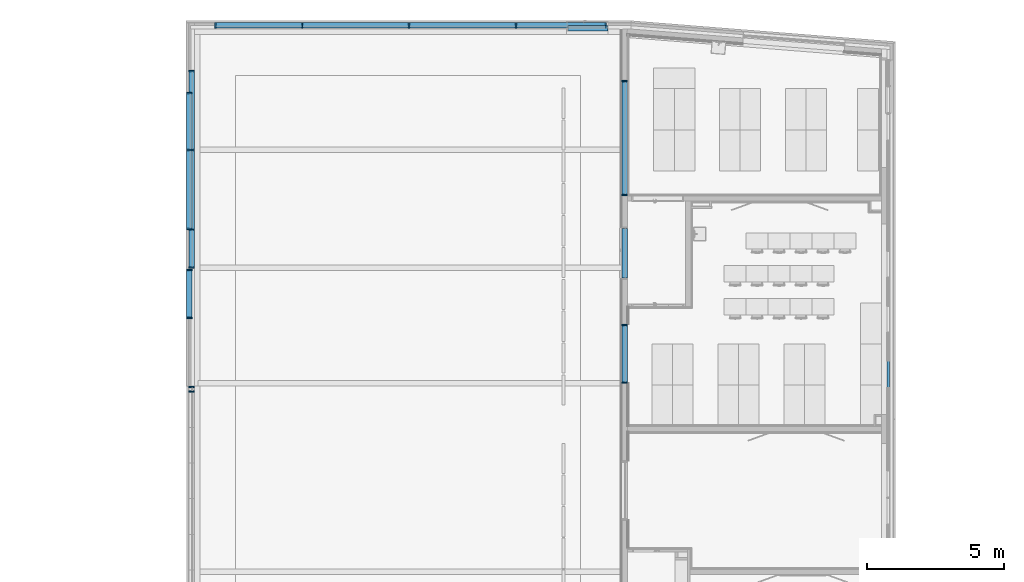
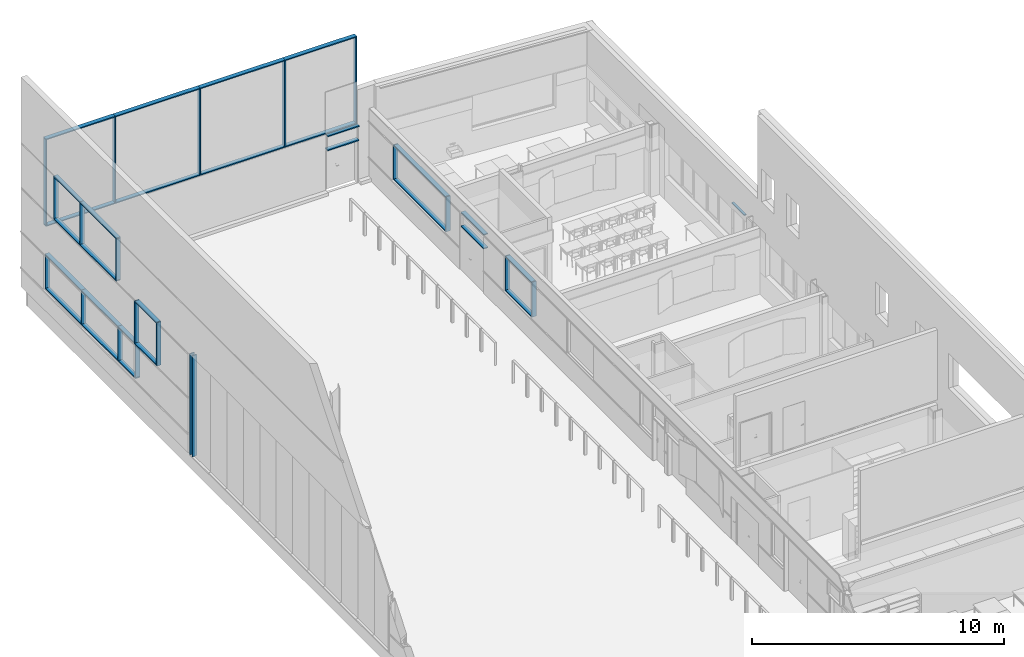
# One storey, part 17 of 137: 53 members, 11 elements without a shape of their own.
"""IFC2X3 building model written with IfcOpenShell, lengths in centimetres."""

from ifc_helpers import new_model, entity, si_unit, converted_unit, derived_unit, direction, frame, frame_2d, origin, origin_2d_with_axis, place, context, subcontext, project, spatial, rectangle, extrude, material, type_object, element, aggregate, save


model = new_model("IFC2X3")

# Units and contexts
model_context = context("Model", 3, precision=0.001, world=origin(), true_north=direction((6.12303176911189e-17, 1.0)))
body_context = subcontext(model_context, "Body", "Model", "MODEL_VIEW")
ifc_project = project(units=[si_unit("LENGTHUNIT", "METRE", prefix="CENTI"), si_unit("AREAUNIT", "SQUARE_METRE"), si_unit("VOLUMEUNIT", "CUBIC_METRE"), converted_unit("PLANEANGLEUNIT", "DEGREE", entity("IfcRatioMeasure", 0.0174532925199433), si_unit("PLANEANGLEUNIT", "RADIAN"), dimensions=[0, 0, 0, 0, 0, 0, 0]), si_unit("MASSUNIT", "GRAM", prefix="KILO"), si_unit("TIMEUNIT", "SECOND"), si_unit("FREQUENCYUNIT", "HERTZ"), si_unit("THERMODYNAMICTEMPERATUREUNIT", "DEGREE_CELSIUS"), derived_unit("THERMALTRANSMITTANCEUNIT", [(si_unit("MASSUNIT", "GRAM", prefix="KILO"), 1), (si_unit("THERMODYNAMICTEMPERATUREUNIT", "KELVIN"), -1), (si_unit("TIMEUNIT", "SECOND"), -3)]), derived_unit("VOLUMETRICFLOWRATEUNIT", [(si_unit("LENGTHUNIT", "METRE"), 3), (si_unit("TIMEUNIT", "SECOND"), -1)]), si_unit("ELECTRICCURRENTUNIT", "AMPERE"), si_unit("ELECTRICVOLTAGEUNIT", "VOLT"), si_unit("POWERUNIT", "WATT"), si_unit("FORCEUNIT", "NEWTON", prefix="KILO"), si_unit("ILLUMINANCEUNIT", "LUX"), si_unit("LUMINOUSFLUXUNIT", "LUMEN"), si_unit("LUMINOUSINTENSITYUNIT", "CANDELA"), derived_unit("USERDEFINED", [(si_unit("MASSUNIT", "GRAM", prefix="KILO"), -1), (si_unit("LENGTHUNIT", "METRE"), -2), (si_unit("TIMEUNIT", "SECOND"), 3), (si_unit("LUMINOUSFLUXUNIT", "LUMEN"), 1)]), derived_unit("LINEARVELOCITYUNIT", [(si_unit("LENGTHUNIT", "METRE"), 1), (si_unit("TIMEUNIT", "SECOND"), -1)]), si_unit("PRESSUREUNIT", "PASCAL"), derived_unit("USERDEFINED", [(si_unit("LENGTHUNIT", "METRE"), -2), (si_unit("MASSUNIT", "GRAM", prefix="KILO"), 1), (si_unit("TIMEUNIT", "SECOND"), -2)])], contexts=[model_context])

# Site, building, storey
site_placement = place(None, frame((8.62739174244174, -249.285249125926, 0.0)))
site = spatial("IfcSite", under=ifc_project, at=site_placement, Name="Default", CompositionType="ELEMENT")
building_placement = place(site_placement, origin())
building = spatial("IfcBuilding", under=site, at=building_placement, CompositionType="ELEMENT")
storey_placement = place(building_placement, origin())
storey = spatial("IfcBuildingStorey", under=building, at=storey_placement, Name="RDC", CompositionType="ELEMENT", Elevation=-8.82465566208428e-11)

# Curtain wall, members
curtain_wall_type = type_object("IfcCurtainWallType", Name="Mur-rideau:Simple panneau", PredefinedType="NOTDEFINED")
curtain_wall_1_placement = place(storey_placement, origin())
curtain_wall_1 = element("IfcCurtainWall", 1, at=curtain_wall_1_placement, inside=storey, type_object=curtain_wall_type, Name="Mur-rideau:Simple panneau", ObjectType="Mur-rideau:Simple panneau")
ifc_material = material(Name="Plastique, blanc opaque")
member_1_placement = place(curtain_wall_1_placement, origin())
member_1 = element("IfcMember", 2, at=member_1_placement, material=ifc_material, Name="Mur-rideau:Simple panneau", ObjectType="Mur-rideau:Simple panneau", context=body_context, shape_type="SweptSolid", body=[
    extrude(rectangle(XDim=20.0, YDim=4.99999999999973, at=frame_2d((1.08357767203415e-13, 4.33209024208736e-13), x_axis=(1.0, 0.0))), frame((1458.9048277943, 7328.47694586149, 705.0), z_axis=(0.0, 0.0, -1.0), x_axis=(-1.0, 0.0, 0.0)), (0.0, 0.0, 1.0), 200.0),
])
member_2_placement = place(curtain_wall_1_placement, origin())
member_2 = element("IfcMember", 3, at=member_2_placement, material=ifc_material, Name="Mur-rideau:Simple panneau", ObjectType="Mur-rideau:Simple panneau", context=body_context, shape_type="SweptSolid", body=[
    extrude(rectangle(XDim=5.00000000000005, YDim=19.9999999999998, at=frame_2d((-5.41788836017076e-14, 0.0), x_axis=(1.0, 0.0))), frame((1458.9048277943, 6830.97694586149, 707.500000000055), z_axis=(0.0, 1.0, 0.0), x_axis=(0.0, 0.0, -1.0)), (0.0, 0.0, 1.0), 290.0),
])
member_3_placement = place(curtain_wall_1_placement, origin())
member_3 = element("IfcMember", 4, at=member_3_placement, material=ifc_material, Name="Mur-rideau:Simple panneau", ObjectType="Mur-rideau:Simple panneau", context=body_context, shape_type="SweptSolid", body=[
    extrude(rectangle(XDim=19.9999999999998, YDim=4.99999999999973, at=frame_2d((0.0, -4.33209024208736e-13), x_axis=(1.0, 0.0))), frame((1458.9048277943, 6833.47694586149, 505.0), z_axis=(0.0, 0.0, 1.0), x_axis=(-1.0, 0.0, 0.0)), (0.0, 0.0, 1.0), 200.0),
])
member_4_placement = place(curtain_wall_1_placement, origin())
member_4 = element("IfcMember", 5, at=member_4_placement, material=ifc_material, Name="Mur-rideau:Simple panneau", ObjectType="Mur-rideau:Simple panneau", context=body_context, shape_type="SweptSolid", body=[
    extrude(rectangle(XDim=4.99999999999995, YDim=20.0000000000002, at=frame_2d((0.0, 2.16715534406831e-13), x_axis=(1.0, 0.0))), frame((1458.9048277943, 7330.97694586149, 502.500000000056), z_axis=(0.0, -1.0, 0.0), x_axis=(0.0, 0.0, -1.0)), (0.0, 0.0, 1.0), 210.0),
])
member_5_placement = place(curtain_wall_1_placement, origin())
member_5 = element("IfcMember", 6, at=member_5_placement, material=ifc_material, Name="Mur-rideau:Simple panneau", ObjectType="Mur-rideau:Simple panneau", context=body_context, shape_type="SweptSolid", body=[
    extrude(rectangle(XDim=5.00000000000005, YDim=19.9999999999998, at=frame_2d((-5.41788836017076e-14, 0.0), x_axis=(1.0, 0.0))), frame((1458.9048277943, 7120.97694586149, 707.500000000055), z_axis=(0.0, 1.0, 0.0), x_axis=(0.0, 0.0, -1.0)), (0.0, 0.0, 1.0), 210.0),
])
member_6_placement = place(curtain_wall_1_placement, origin())
member_6 = element("IfcMember", 7, at=member_6_placement, material=ifc_material, Name="Mur-rideau:Simple panneau", ObjectType="Mur-rideau:Simple panneau", context=body_context, shape_type="SweptSolid", body=[
    extrude(rectangle(XDim=4.99999999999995, YDim=19.9999999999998, at=origin_2d_with_axis()), frame((1458.9048277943, 7120.97694586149, 502.500000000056), z_axis=(0.0, -1.0, 0.0), x_axis=(0.0, 0.0, -1.0)), (0.0, 0.0, 1.0), 290.0),
])
member_7_placement = place(curtain_wall_1_placement, origin())
member_7 = element("IfcMember", 8, at=member_7_placement, material=ifc_material, Name="Mur-rideau:Simple panneau", ObjectType="Mur-rideau:Simple panneau", context=body_context, shape_type="SweptSolid", body=[
    extrude(rectangle(XDim=19.9999999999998, YDim=5.0000000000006, at=frame_2d((0.0, 8.66418048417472e-13), x_axis=(1.0, 0.0))), frame((1458.9048277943, 7120.97694586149, 505.0), z_axis=(0.0, 0.0, 1.0), x_axis=(-1.0, 0.0, 0.0)), (0.0, 0.0, 1.0), 200.0),
])
aggregate(curtain_wall_1, [member_1, member_2, member_3, member_4, member_5, member_6, member_7])

curtain_wall_2_placement = place(storey_placement, origin())
curtain_wall_2 = element("IfcCurtainWall", 9, at=curtain_wall_2_placement, inside=storey, type_object=curtain_wall_type, Name="Mur-rideau:Simple panneau", ObjectType="Mur-rideau:Simple panneau")
member_8_placement = place(curtain_wall_2_placement, origin())
member_8 = element("IfcMember", 10, at=member_8_placement, material=ifc_material, Name="Mur-rideau:Simple panneau", ObjectType="Mur-rideau:Simple panneau", context=body_context, shape_type="SweptSolid", body=[
    extrude(rectangle(XDim=20.0000000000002, YDim=4.99999999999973, at=frame_2d((0.0, -4.33209024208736e-13), x_axis=(1.0, 0.0))), frame((1466.9048277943, 6258.77522290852, 495.0), z_axis=(0.0, 0.0, -1.0), x_axis=(-1.0, 0.0, 0.0)), (0.0, 0.0, 1.0), 490.0),
])
member_9_placement = place(curtain_wall_2_placement, origin())
member_9 = element("IfcMember", 11, at=member_9_placement, material=ifc_material, Name="Mur-rideau:Simple panneau", ObjectType="Mur-rideau:Simple panneau", context=body_context, shape_type="SweptSolid", body=[
    extrude(rectangle(XDim=20.0000000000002, YDim=5.0000000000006, at=origin_2d_with_axis()), frame((1466.9048277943, 6241.27522290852, 5.0), z_axis=(0.0, 0.0, 1.0), x_axis=(-1.0, 0.0, 0.0)), (0.0, 0.0, 1.0), 490.0),
])
aggregate(curtain_wall_2, [member_8, member_9])

# Curtain wall, member
curtain_wall_3_placement = place(storey_placement, origin())
curtain_wall_3 = element("IfcCurtainWall", 12, at=curtain_wall_3_placement, inside=storey, type_object=curtain_wall_type, Name="Mur-rideau:Simple panneau", ObjectType="Mur-rideau:Simple panneau")
member_10_placement = place(curtain_wall_3_placement, origin())
member_10 = element("IfcMember", 13, at=member_10_placement, material=ifc_material, Name="Mur-rideau:Simple panneau", ObjectType="Mur-rideau:Simple panneau", context=body_context, shape_type="SweptSolid", body=[
    extrude(rectangle(XDim=5.0, YDim=9.99999999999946, at=frame_2d((2.70894418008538e-14, 0.0), x_axis=(1.0, 0.0))), frame((4003.90482781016, 6254.9802081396, 277.500000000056), z_axis=(0.0, 1.0, 0.0), x_axis=(0.0, 0.0, -1.0)), (0.0, 0.0, 1.0), 99.9999999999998),
])
aggregate(curtain_wall_3, [member_10])

# Curtain wall, members
curtain_wall_4_placement = place(storey_placement, origin())
curtain_wall_4 = element("IfcCurtainWall", 14, at=curtain_wall_4_placement, inside=storey, type_object=curtain_wall_type, Name="Mur-rideau:Simple panneau", ObjectType="Mur-rideau:Simple panneau")
member_11_placement = place(curtain_wall_4_placement, origin())
member_11 = element("IfcMember", 15, at=member_11_placement, material=ifc_material, Name="Mur-rideau:Simple panneau", ObjectType="Mur-rideau:Simple panneau", context=body_context, shape_type="SweptSolid", body=[
    extrude(rectangle(XDim=19.9999999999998, YDim=4.99999999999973, at=frame_2d((-4.33431068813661e-13, -4.33209024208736e-13), x_axis=(1.0, 0.0))), frame((3043.9048277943, 6483.77522290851, 110.0), z_axis=(0.0, 0.0, 1.0), x_axis=(-1.0, 0.0, 0.0)), (0.0, 0.0, 1.0), 170.0),
])
member_12_placement = place(curtain_wall_4_placement, origin())
member_12 = element("IfcMember", 16, at=member_12_placement, material=ifc_material, Name="Mur-rideau:Simple panneau", ObjectType="Mur-rideau:Simple panneau", context=body_context, shape_type="SweptSolid", body=[
    extrude(rectangle(XDim=5.0, YDim=19.9999999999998, at=frame_2d((2.70894418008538e-14, 4.33431068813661e-13), x_axis=(1.0, 0.0))), frame((3043.9048277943, 6481.27522290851, 277.500000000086), z_axis=(0.0, -1.0, 0.0), x_axis=(0.0, 0.0, -1.0)), (0.0, 0.0, 1.0), 205.0),
])
member_13_placement = place(curtain_wall_4_placement, origin())
member_13 = element("IfcMember", 17, at=member_13_placement, material=ifc_material, Name="Mur-rideau:Simple panneau", ObjectType="Mur-rideau:Simple panneau", context=body_context, shape_type="SweptSolid", body=[
    extrude(rectangle(XDim=5.0, YDim=19.9999999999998, at=origin_2d_with_axis()), frame((3043.9048277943, 6276.27522290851, 112.499999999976), z_axis=(0.0, 1.0, 0.0), x_axis=(0.0, 0.0, -1.0)), (0.0, 0.0, 1.0), 205.0),
])
member_14_placement = place(curtain_wall_4_placement, origin())
member_14 = element("IfcMember", 18, at=member_14_placement, material=ifc_material, Name="Mur-rideau:Simple panneau", ObjectType="Mur-rideau:Simple panneau", context=body_context, shape_type="SweptSolid", body=[
    extrude(rectangle(XDim=19.9999999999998, YDim=4.99999999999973, at=frame_2d((0.0, -4.33209024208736e-13), x_axis=(1.0, 0.0))), frame((3043.9048277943, 6273.77522290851, 280.0), z_axis=(0.0, 0.0, -1.0), x_axis=(-1.0, 0.0, 0.0)), (0.0, 0.0, 1.0), 170.0),
])
aggregate(curtain_wall_4, [member_11, member_12, member_13, member_14])

curtain_wall_5_placement = place(storey_placement, origin())
curtain_wall_5 = element("IfcCurtainWall", 19, at=curtain_wall_5_placement, inside=storey, type_object=curtain_wall_type, Name="Mur-rideau:Simple panneau", ObjectType="Mur-rideau:Simple panneau")
member_15_placement = place(curtain_wall_5_placement, origin())
member_15 = element("IfcMember", 20, at=member_15_placement, material=ifc_material, Name="Mur-rideau:Simple panneau", ObjectType="Mur-rideau:Simple panneau", context=body_context, shape_type="SweptSolid", body=[
    extrude(rectangle(XDim=19.9999999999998, YDim=4.99999999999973, at=frame_2d((-4.33431068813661e-13, 4.33209024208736e-13), x_axis=(1.0, 0.0))), frame((3043.9048277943, 7372.2007380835, 110.0), z_axis=(0.0, 0.0, 1.0), x_axis=(-1.0, 0.0, 0.0)), (0.0, 0.0, 1.0), 170.0),
])
member_16_placement = place(curtain_wall_5_placement, origin())
member_16 = element("IfcMember", 21, at=member_16_placement, material=ifc_material, Name="Mur-rideau:Simple panneau", ObjectType="Mur-rideau:Simple panneau", context=body_context, shape_type="SweptSolid", body=[
    extrude(rectangle(XDim=5.0, YDim=19.9999999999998, at=frame_2d((2.70894418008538e-14, 4.33431068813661e-13), x_axis=(1.0, 0.0))), frame((3043.9048277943, 7369.7007380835, 277.500000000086), z_axis=(0.0, -1.0, 0.0), x_axis=(0.0, 0.0, -1.0)), (0.0, 0.0, 1.0), 410.000000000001),
])
member_17_placement = place(curtain_wall_5_placement, origin())
member_17 = element("IfcMember", 22, at=member_17_placement, material=ifc_material, Name="Mur-rideau:Simple panneau", ObjectType="Mur-rideau:Simple panneau", context=body_context, shape_type="SweptSolid", body=[
    extrude(rectangle(XDim=5.0, YDim=19.9999999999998, at=origin_2d_with_axis()), frame((3043.9048277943, 6959.7007380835, 112.500000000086), z_axis=(0.0, 1.0, 0.0), x_axis=(0.0, 0.0, -1.0)), (0.0, 0.0, 1.0), 410.000000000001),
])
member_18_placement = place(curtain_wall_5_placement, origin())
member_18 = element("IfcMember", 23, at=member_18_placement, material=ifc_material, Name="Mur-rideau:Simple panneau", ObjectType="Mur-rideau:Simple panneau", context=body_context, shape_type="SweptSolid", body=[
    extrude(rectangle(XDim=19.9999999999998, YDim=4.99999999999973, at=frame_2d((4.33431068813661e-13, -4.33209024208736e-13), x_axis=(1.0, 0.0))), frame((3043.9048277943, 6957.2007380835, 280.0), z_axis=(0.0, 0.0, -1.0), x_axis=(-1.0, 0.0, 0.0)), (0.0, 0.0, 1.0), 170.0),
])
aggregate(curtain_wall_5, [member_15, member_16, member_17, member_18])

curtain_wall_6_placement = place(storey_placement, origin())
curtain_wall_6 = element("IfcCurtainWall", 24, at=curtain_wall_6_placement, inside=storey, type_object=curtain_wall_type, Name="Mur-rideau:Simple panneau", ObjectType="Mur-rideau:Simple panneau")
member_19_placement = place(curtain_wall_6_placement, origin())
member_19 = element("IfcMember", 25, at=member_19_placement, material=ifc_material, Name="Mur-rideau:Simple panneau", ObjectType="Mur-rideau:Simple panneau", context=body_context, shape_type="SweptSolid", body=[
    extrude(rectangle(XDim=20.0, YDim=4.99999999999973, at=frame_2d((1.08357767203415e-13, -4.33209024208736e-13), x_axis=(1.0, 0.0))), frame((1458.9048277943, 6684.97200252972, 495.0), z_axis=(0.0, 0.0, -1.0), x_axis=(-1.0, 0.0, 0.0)), (0.0, 0.0, 1.0), 210.0),
])
member_20_placement = place(curtain_wall_6_placement, origin())
member_20 = element("IfcMember", 26, at=member_20_placement, material=ifc_material, Name="Mur-rideau:Simple panneau", ObjectType="Mur-rideau:Simple panneau", context=body_context, shape_type="SweptSolid", body=[
    extrude(rectangle(XDim=4.99999999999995, YDim=20.0, at=frame_2d((0.0, 1.08357767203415e-13), x_axis=(1.0, 0.0))), frame((1458.9048277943, 6512.47200252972, 492.500000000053), z_axis=(0.0, 1.0, 0.0), x_axis=(0.0, 0.0, -1.0)), (0.0, 0.0, 1.0), 170.0),
])
member_21_placement = place(curtain_wall_6_placement, origin())
member_21 = element("IfcMember", 27, at=member_21_placement, material=ifc_material, Name="Mur-rideau:Simple panneau", ObjectType="Mur-rideau:Simple panneau", context=body_context, shape_type="SweptSolid", body=[
    extrude(rectangle(XDim=19.9999999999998, YDim=4.99999999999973, at=frame_2d((0.0, 4.33209024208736e-13), x_axis=(1.0, 0.0))), frame((1458.9048277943, 6509.97200252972, 285.0), z_axis=(0.0, 0.0, 1.0), x_axis=(-1.0, 0.0, 0.0)), (0.0, 0.0, 1.0), 210.0),
])
member_22_placement = place(curtain_wall_6_placement, origin())
member_22 = element("IfcMember", 28, at=member_22_placement, material=ifc_material, Name="Mur-rideau:Simple panneau", ObjectType="Mur-rideau:Simple panneau", context=body_context, shape_type="SweptSolid", body=[
    extrude(rectangle(XDim=5.0, YDim=20.0000000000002, at=frame_2d((-2.70894418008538e-14, 0.0), x_axis=(1.0, 0.0))), frame((1458.9048277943, 6682.47200252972, 287.500000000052), z_axis=(0.0, -1.0, 0.0), x_axis=(0.0, 0.0, -1.0)), (0.0, 0.0, 1.0), 170.0),
])
aggregate(curtain_wall_6, [member_19, member_20, member_21, member_22])

curtain_wall_7_placement = place(storey_placement, origin())
curtain_wall_7 = element("IfcCurtainWall", 29, at=curtain_wall_7_placement, inside=storey, type_object=curtain_wall_type, Name="Mur-rideau:Simple panneau", ObjectType="Mur-rideau:Simple panneau")
member_23_placement = place(curtain_wall_7_placement, origin())
member_23 = element("IfcMember", 30, at=member_23_placement, material=ifc_material, Name="Mur-rideau:Simple panneau", ObjectType="Mur-rideau:Simple panneau", context=body_context, shape_type="SweptSolid", body=[
    extrude(rectangle(XDim=19.9999999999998, YDim=4.99999999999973, at=frame_2d((0.0, -4.33209024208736e-13), x_axis=(1.0, 0.0))), frame((1466.9048277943, 7408.47200252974, 275.0), z_axis=(0.0, 0.0, -1.0), x_axis=(-1.0, 0.0, 0.0)), (0.0, 0.0, 1.0), 160.0),
])
member_24_placement = place(curtain_wall_7_placement, origin())
member_24 = element("IfcMember", 31, at=member_24_placement, material=ifc_material, Name="Mur-rideau:Simple panneau", ObjectType="Mur-rideau:Simple panneau", context=body_context, shape_type="SweptSolid", body=[
    extrude(rectangle(XDim=5.0, YDim=19.9999999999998, at=frame_2d((2.70894418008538e-14, 0.0), x_axis=(1.0, 0.0))), frame((1466.9048277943, 6690.97200252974, 277.499999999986), z_axis=(0.0, 1.0, 0.0), x_axis=(0.0, 0.0, -1.0)), (0.0, 0.0, 1.0), 140.103333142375),
])
member_25_placement = place(curtain_wall_7_placement, origin())
member_25 = element("IfcMember", 32, at=member_25_placement, material=ifc_material, Name="Mur-rideau:Simple panneau", ObjectType="Mur-rideau:Simple panneau", context=body_context, shape_type="SweptSolid", body=[
    extrude(rectangle(XDim=19.9999999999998, YDim=4.99999999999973, at=frame_2d((0.0, -4.33209024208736e-13), x_axis=(1.0, 0.0))), frame((1466.9048277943, 6693.47200252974, 115.0), z_axis=(0.0, 0.0, 1.0), x_axis=(-1.0, 0.0, 0.0)), (0.0, 0.0, 1.0), 160.0),
])
member_26_placement = place(curtain_wall_7_placement, origin())
member_26 = element("IfcMember", 33, at=member_26_placement, material=ifc_material, Name="Mur-rideau:Simple panneau", ObjectType="Mur-rideau:Simple panneau", context=body_context, shape_type="SweptSolid", body=[
    extrude(rectangle(XDim=5.0, YDim=19.9999999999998, at=frame_2d((0.0, -2.16715534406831e-13), x_axis=(1.0, 0.0))), frame((1466.9048277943, 7410.97200252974, 112.500000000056), z_axis=(0.0, -1.0, 0.0), x_axis=(0.0, 0.0, -1.0)), (0.0, 0.0, 1.0), 289.896666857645),
])
member_27_placement = place(curtain_wall_7_placement, origin())
member_27 = element("IfcMember", 34, at=member_27_placement, material=ifc_material, Name="Mur-rideau:Simple panneau", ObjectType="Mur-rideau:Simple panneau", context=body_context, shape_type="SweptSolid", body=[
    extrude(rectangle(XDim=5.0, YDim=19.9999999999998, at=frame_2d((2.70894418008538e-14, 0.0), x_axis=(1.0, 0.0))), frame((1466.9048277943, 7121.07533567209, 277.499999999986), z_axis=(0.0, 1.0, 0.0), x_axis=(0.0, 0.0, -1.0)), (0.0, 0.0, 1.0), 289.896666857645),
])
member_28_placement = place(curtain_wall_7_placement, origin())
member_28 = element("IfcMember", 35, at=member_28_placement, material=ifc_material, Name="Mur-rideau:Simple panneau", ObjectType="Mur-rideau:Simple panneau", context=body_context, shape_type="SweptSolid", body=[
    extrude(rectangle(XDim=5.0, YDim=19.9999999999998, at=origin_2d_with_axis()), frame((1466.9048277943, 7121.07533567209, 112.500000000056), z_axis=(0.0, -1.0, 0.0), x_axis=(0.0, 0.0, -1.0)), (0.0, 0.0, 1.0), 290.0),
])
member_29_placement = place(curtain_wall_7_placement, origin())
member_29 = element("IfcMember", 36, at=member_29_placement, material=ifc_material, Name="Mur-rideau:Simple panneau", ObjectType="Mur-rideau:Simple panneau", context=body_context, shape_type="SweptSolid", body=[
    extrude(rectangle(XDim=5.0, YDim=20.0, at=frame_2d((2.70894418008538e-14, 1.08357767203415e-13), x_axis=(1.0, 0.0))), frame((1466.9048277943, 6831.07533567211, 277.499999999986), z_axis=(0.0, 1.0, 0.0), x_axis=(0.0, 0.0, -1.0)), (0.0, 0.0, 1.0), 290.0),
])
member_30_placement = place(curtain_wall_7_placement, origin())
member_30 = element("IfcMember", 37, at=member_30_placement, material=ifc_material, Name="Mur-rideau:Simple panneau", ObjectType="Mur-rideau:Simple panneau", context=body_context, shape_type="SweptSolid", body=[
    extrude(rectangle(XDim=5.0, YDim=20.0000000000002, at=origin_2d_with_axis()), frame((1466.9048277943, 6831.07533567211, 112.500000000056), z_axis=(0.0, -1.0, 0.0), x_axis=(0.0, 0.0, -1.0)), (0.0, 0.0, 1.0), 140.103333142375),
])
member_31_placement = place(curtain_wall_7_placement, origin())
member_31 = element("IfcMember", 38, at=member_31_placement, material=ifc_material, Name="Mur-rideau:Simple panneau", ObjectType="Mur-rideau:Simple panneau", context=body_context, shape_type="SweptSolid", body=[
    extrude(rectangle(XDim=19.9999999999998, YDim=5.0000000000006, at=origin_2d_with_axis()), frame((1466.9048277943, 7121.07533567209, 115.0), z_axis=(0.0, 0.0, 1.0), x_axis=(-1.0, 0.0, 0.0)), (0.0, 0.0, 1.0), 160.0),
])
member_32_placement = place(curtain_wall_7_placement, origin())
member_32 = element("IfcMember", 39, at=member_32_placement, material=ifc_material, Name="Mur-rideau:Simple panneau", ObjectType="Mur-rideau:Simple panneau", context=body_context, shape_type="SweptSolid", body=[
    extrude(rectangle(XDim=20.0000000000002, YDim=5.0000000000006, at=frame_2d((0.0, 8.66418048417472e-13), x_axis=(1.0, 0.0))), frame((1466.9048277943, 6831.07533567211, 115.0), z_axis=(0.0, 0.0, 1.0), x_axis=(-1.0, 0.0, 0.0)), (0.0, 0.0, 1.0), 160.0),
])
aggregate(curtain_wall_7, [member_23, member_24, member_25, member_26, member_27, member_28, member_29, member_30, member_31, member_32])

curtain_wall_8_placement = place(storey_placement, origin())
curtain_wall_8 = element("IfcCurtainWall", 40, at=curtain_wall_8_placement, inside=storey, type_object=curtain_wall_type, Name="Mur-rideau:Simple panneau", ObjectType="Mur-rideau:Simple panneau")
member_33_placement = place(curtain_wall_8_placement, origin())
member_33 = element("IfcMember", 41, at=member_33_placement, material=ifc_material, Name="Mur-rideau:Simple panneau", ObjectType="Mur-rideau:Simple panneau", context=body_context, shape_type="SweptSolid", body=[
    extrude(rectangle(XDim=4.99999999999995, YDim=20.0000000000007, at=frame_2d((0.0, 8.65973959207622e-13), x_axis=(1.0, 0.0))), frame((1550.90482780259, 7574.976551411, 707.500000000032), z_axis=(1.0, 0.0, 0.0), x_axis=(0.0, 0.0, -1.0)), (0.0, 0.0, 1.0), 319.252413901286),
])
member_34_placement = place(curtain_wall_8_placement, origin())
member_34 = element("IfcMember", 42, at=member_34_placement, material=ifc_material, Name="Mur-rideau:Simple panneau", ObjectType="Mur-rideau:Simple panneau", context=body_context, shape_type="SweptSolid", body=[
    extrude(rectangle(XDim=4.99999999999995, YDim=20.0000000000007, at=frame_2d((1.08357767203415e-13, 0.0), x_axis=(1.0, 0.0))), frame((1553.40482780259, 7574.976551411, 290.0), z_axis=(0.0, 0.0, 1.0), x_axis=(-1.0, 0.0, 0.0)), (0.0, 0.0, 1.0), 415.000000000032),
])
member_35_placement = place(curtain_wall_8_placement, origin())
member_35 = element("IfcMember", 43, at=member_35_placement, material=ifc_material, Name="Mur-rideau:Simple panneau", ObjectType="Mur-rideau:Simple panneau", context=body_context, shape_type="SweptSolid", body=[
    extrude(rectangle(XDim=4.99999999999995, YDim=20.0000000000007, at=frame_2d((0.0, 8.65973959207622e-13), x_axis=(1.0, 0.0))), frame((2648.62406356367, 7574.976551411, 707.500000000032), z_axis=(1.0, 0.0, 0.0), x_axis=(0.0, 0.0, -1.0)), (0.0, 0.0, 1.0), 329.280764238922),
])
member_36_placement = place(curtain_wall_8_placement, origin())
member_36 = element("IfcMember", 44, at=member_36_placement, material=ifc_material, Name="Mur-rideau:Simple panneau", ObjectType="Mur-rideau:Simple panneau", context=body_context, shape_type="SweptSolid", body=[
    extrude(rectangle(XDim=4.99999999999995, YDim=20.0000000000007, at=frame_2d((0.0, 2.59881005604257e-12), x_axis=(1.0, 0.0))), frame((2259.40724170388, 7574.976551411, 707.500000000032), z_axis=(1.0, 0.0, 0.0), x_axis=(0.0, 0.0, -1.0)), (0.0, 0.0, 1.0), 389.216821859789),
])
member_37_placement = place(curtain_wall_8_placement, origin())
member_37 = element("IfcMember", 45, at=member_37_placement, material=ifc_material, Name="Mur-rideau:Simple panneau", ObjectType="Mur-rideau:Simple panneau", context=body_context, shape_type="SweptSolid", body=[
    extrude(rectangle(XDim=4.99999999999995, YDim=20.0000000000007, at=frame_2d((0.0, 8.65973959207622e-13), x_axis=(1.0, 0.0))), frame((1870.15724170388, 7574.976551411, 707.500000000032), z_axis=(1.0, 0.0, 0.0), x_axis=(0.0, 0.0, -1.0)), (0.0, 0.0, 1.0), 389.250000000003),
])
member_38_placement = place(curtain_wall_8_placement, origin())
member_38 = element("IfcMember", 46, at=member_38_placement, material=ifc_material, Name="Mur-rideau:Simple panneau", ObjectType="Mur-rideau:Simple panneau", context=body_context, shape_type="SweptSolid", body=[
    extrude(rectangle(XDim=4.99999999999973, YDim=20.0000000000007, at=origin_2d_with_axis()), frame((2648.62406356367, 7574.976551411, 290.0), z_axis=(0.0, 0.0, 1.0), x_axis=(-1.0, 0.0, 0.0)), (0.0, 0.0, 1.0), 415.000000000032),
])
member_39_placement = place(curtain_wall_8_placement, origin())
member_39 = element("IfcMember", 47, at=member_39_placement, material=ifc_material, Name="Mur-rideau:Simple panneau", ObjectType="Mur-rideau:Simple panneau", context=body_context, shape_type="SweptSolid", body=[
    extrude(rectangle(XDim=4.99999999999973, YDim=20.0000000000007, at=frame_2d((0.0, 8.66862137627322e-13), x_axis=(1.0, 0.0))), frame((2259.40724170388, 7574.976551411, 290.0), z_axis=(0.0, 0.0, 1.0), x_axis=(-1.0, 0.0, 0.0)), (0.0, 0.0, 1.0), 415.000000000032),
])
member_40_placement = place(curtain_wall_8_placement, origin())
member_40 = element("IfcMember", 48, at=member_40_placement, material=ifc_material, Name="Mur-rideau:Simple panneau", ObjectType="Mur-rideau:Simple panneau", context=body_context, shape_type="SweptSolid", body=[
    extrude(rectangle(XDim=5.00000000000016, YDim=20.0000000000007, at=origin_2d_with_axis()), frame((1870.15724170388, 7574.976551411, 290.0), z_axis=(0.0, 0.0, 1.0), x_axis=(-1.0, 0.0, 0.0)), (0.0, 0.0, 1.0), 415.000000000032),
])
member_41_placement = place(curtain_wall_8_placement, origin())
member_41 = element("IfcMember", 49, at=member_41_placement, material=ifc_material, Name="Mur-rideau:Simple panneau", ObjectType="Mur-rideau:Simple panneau", context=body_context, shape_type="SweptSolid", body=[
    extrude(rectangle(XDim=5.00000000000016, YDim=20.0000000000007, at=frame_2d((-2.16715534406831e-13, 0.0), x_axis=(1.0, 0.0))), frame((2975.40482780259, 7574.976551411, 705.0), z_axis=(0.0, 0.0, -1.0), x_axis=(-1.0, 0.0, 0.0)), (0.0, 0.0, 1.0), 415.000000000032),
])
member_42_placement = place(curtain_wall_8_placement, origin())
member_42 = element("IfcMember", 50, at=member_42_placement, material=ifc_material, Name="Mur-rideau:Simple panneau", ObjectType="Mur-rideau:Simple panneau", context=body_context, shape_type="SweptSolid", body=[
    extrude(rectangle(XDim=5.0, YDim=20.0000000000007, at=frame_2d((-2.70894418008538e-14, 8.65973959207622e-13), x_axis=(1.0, 0.0))), frame((1870.15724170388, 7574.976551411, 287.5), z_axis=(-1.0, 0.0, 0.0), x_axis=(0.0, 0.0, -1.0)), (0.0, 0.0, 1.0), 319.252413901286),
])
member_43_placement = place(curtain_wall_8_placement, origin())
member_43 = element("IfcMember", 51, at=member_43_placement, material=ifc_material, Name="Mur-rideau:Simple panneau", ObjectType="Mur-rideau:Simple panneau", context=body_context, shape_type="SweptSolid", body=[
    extrude(rectangle(XDim=5.0, YDim=20.0000000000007, at=frame_2d((-2.70894418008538e-14, 8.65973959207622e-13), x_axis=(1.0, 0.0))), frame((2259.40724170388, 7574.976551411, 287.5), z_axis=(-1.0, 0.0, 0.0), x_axis=(0.0, 0.0, -1.0)), (0.0, 0.0, 1.0), 389.250000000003),
])
member_44_placement = place(curtain_wall_8_placement, origin())
member_44 = element("IfcMember", 52, at=member_44_placement, material=ifc_material, Name="Mur-rideau:Simple panneau", ObjectType="Mur-rideau:Simple panneau", context=body_context, shape_type="SweptSolid", body=[
    extrude(rectangle(XDim=5.0, YDim=20.0000000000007, at=frame_2d((-2.70894418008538e-14, 2.59881005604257e-12), x_axis=(1.0, 0.0))), frame((2648.62406356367, 7574.976551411, 287.5), z_axis=(-1.0, 0.0, 0.0), x_axis=(0.0, 0.0, -1.0)), (0.0, 0.0, 1.0), 389.216821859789),
])
member_45_placement = place(curtain_wall_8_placement, origin())
member_45 = element("IfcMember", 53, at=member_45_placement, material=ifc_material, Name="Mur-rideau:Simple panneau", ObjectType="Mur-rideau:Simple panneau", context=body_context, shape_type="SweptSolid", body=[
    extrude(rectangle(XDim=5.0, YDim=20.0000000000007, at=frame_2d((-2.70894418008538e-14, 8.65973959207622e-13), x_axis=(1.0, 0.0))), frame((2977.9048278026, 7574.976551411, 287.5), z_axis=(-1.0, 0.0, 0.0), x_axis=(0.0, 0.0, -1.0)), (0.0, 0.0, 1.0), 329.280764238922),
])
aggregate(curtain_wall_8, [member_33, member_34, member_35, member_36, member_37, member_38, member_39, member_40, member_41, member_42, member_43, member_44, member_45])

curtain_wall_9_placement = place(storey_placement, origin())
curtain_wall_9 = element("IfcCurtainWall", 54, at=curtain_wall_9_placement, inside=storey, type_object=curtain_wall_type, Name="Mur-rideau:Simple panneau", ObjectType="Mur-rideau:Simple panneau")
member_46_placement = place(curtain_wall_9_placement, origin())
member_46 = element("IfcMember", 55, at=member_46_placement, material=ifc_material, Name="Mur-rideau:Simple panneau", ObjectType="Mur-rideau:Simple panneau", context=body_context, shape_type="SweptSolid", body=[
    extrude(rectangle(XDim=20.0, YDim=4.99999999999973, at=frame_2d((1.08357767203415e-13, 4.33209024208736e-13), x_axis=(1.0, 0.0))), frame((1458.90482779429, 6684.97200252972, 495.0), z_axis=(0.0, 0.0, -1.0), x_axis=(-1.0, 0.0, 0.0)), (0.0, 0.0, 1.0), 210.0),
])
member_47_placement = place(curtain_wall_9_placement, origin())
member_47 = element("IfcMember", 56, at=member_47_placement, material=ifc_material, Name="Mur-rideau:Simple panneau", ObjectType="Mur-rideau:Simple panneau", context=body_context, shape_type="SweptSolid", body=[
    extrude(rectangle(XDim=4.99999999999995, YDim=20.0000000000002, at=origin_2d_with_axis()), frame((1458.90482779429, 6512.47200252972, 492.500000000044), z_axis=(0.0, 1.0, 0.0), x_axis=(0.0, 0.0, -1.0)), (0.0, 0.0, 1.0), 170.0),
])
member_48_placement = place(curtain_wall_9_placement, origin())
member_48 = element("IfcMember", 57, at=member_48_placement, material=ifc_material, Name="Mur-rideau:Simple panneau", ObjectType="Mur-rideau:Simple panneau", context=body_context, shape_type="SweptSolid", body=[
    extrude(rectangle(XDim=20.0, YDim=4.99999999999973, at=frame_2d((1.08357767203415e-13, -4.33209024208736e-13), x_axis=(1.0, 0.0))), frame((1458.90482779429, 6509.97200252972, 285.0), z_axis=(0.0, 0.0, 1.0), x_axis=(-1.0, 0.0, 0.0)), (0.0, 0.0, 1.0), 210.0),
])
member_49_placement = place(curtain_wall_9_placement, origin())
member_49 = element("IfcMember", 58, at=member_49_placement, material=ifc_material, Name="Mur-rideau:Simple panneau", ObjectType="Mur-rideau:Simple panneau", context=body_context, shape_type="SweptSolid", body=[
    extrude(rectangle(XDim=5.0, YDim=20.0000000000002, at=frame_2d((2.70894418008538e-14, 2.16715534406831e-13), x_axis=(1.0, 0.0))), frame((1458.90482779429, 6682.47200252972, 287.500000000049), z_axis=(0.0, -1.0, 0.0), x_axis=(0.0, 0.0, -1.0)), (0.0, 0.0, 1.0), 170.0),
])
aggregate(curtain_wall_9, [member_46, member_47, member_48, member_49])

curtain_wall_10_placement = place(storey_placement, origin())
curtain_wall_10 = element("IfcCurtainWall", 59, at=curtain_wall_10_placement, inside=storey, type_object=curtain_wall_type, Name="Mur-rideau:Simple panneau", ObjectType="Mur-rideau:Simple panneau")
member_50_placement = place(curtain_wall_10_placement, origin())
member_50 = element("IfcMember", 60, at=member_50_placement, material=ifc_material, Name="Mur-rideau:Simple panneau", ObjectType="Mur-rideau:Simple panneau", context=body_context, shape_type="SweptSolid", body=[
    extrude(rectangle(XDim=5.0, YDim=19.9999999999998, at=frame_2d((2.70894418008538e-14, 0.0), x_axis=(1.0, 0.0))), frame((3043.9048277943, 6654.78019846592, 277.500000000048), z_axis=(0.0, 1.0, 0.0), x_axis=(0.0, 0.0, -1.0)), (0.0, 0.0, 1.0), 181.0),
])
member_51_placement = place(curtain_wall_10_placement, origin())
member_51 = element("IfcMember", 61, at=member_51_placement, material=ifc_material, Name="Mur-rideau:Simple panneau", ObjectType="Mur-rideau:Simple panneau", context=body_context, shape_type="SweptSolid", body=[
    extrude(rectangle(XDim=5.0, YDim=19.9999999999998, at=origin_2d_with_axis()), frame((3043.9048277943, 6835.78019846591, 210.500000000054), z_axis=(0.0, -1.0, 0.0), x_axis=(0.0, 0.0, -1.0)), (0.0, 0.0, 1.0), 181.0),
])
aggregate(curtain_wall_10, [member_50, member_51])

curtain_wall_11_placement = place(storey_placement, origin())
curtain_wall_11 = element("IfcCurtainWall", 62, at=curtain_wall_11_placement, inside=storey, type_object=curtain_wall_type, Name="Mur-rideau:Simple panneau", ObjectType="Mur-rideau:Simple panneau")
member_52_placement = place(curtain_wall_11_placement, origin())
member_52 = element("IfcMember", 63, at=member_52_placement, material=ifc_material, Name="Mur-rideau:Simple panneau", ObjectType="Mur-rideau:Simple panneau", context=body_context, shape_type="SweptSolid", body=[
    extrude(rectangle(XDim=5.0, YDim=20.0000000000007, at=frame_2d((-2.70894418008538e-14, 0.0), x_axis=(1.0, 0.0))), frame((2982.90482780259, 7564.976551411, 277.5), z_axis=(-1.0, 0.0, 0.0), x_axis=(0.0, 0.0, -1.0)), (0.0, 0.0, 1.0), 145.000000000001),
])
member_53_placement = place(curtain_wall_11_placement, origin())
member_53 = element("IfcMember", 64, at=member_53_placement, material=ifc_material, Name="Mur-rideau:Simple panneau", ObjectType="Mur-rideau:Simple panneau", context=body_context, shape_type="SweptSolid", body=[
    extrude(rectangle(XDim=5.0, YDim=20.0000000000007, at=origin_2d_with_axis()), frame((2837.90482780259, 7564.976551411, 209.499999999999), z_axis=(1.0, 0.0, 0.0), x_axis=(0.0, 0.0, -1.0)), (0.0, 0.0, 1.0), 144.0),
])
aggregate(curtain_wall_11, [member_52, member_53])

save(model, "model.ifc")
